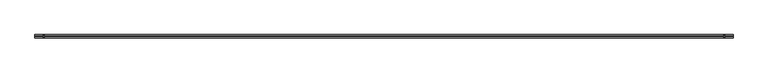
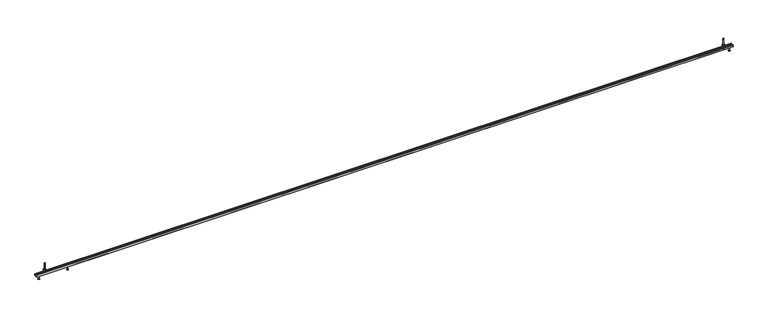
"""IFC4 building model written with IfcOpenShell, lengths in millimetres: fastener geometry, JTA-K JORDAHL® AnchorChannels : JTA-K L=6000 mm."""

from ifc_helpers import new_model, si_unit, point, frame, frame_2d, origin, place, context, project, spatial, polyline, circle_curve, trimmed, segment, composite_curve, outline, extrude, source, transform, mapped, element, save
from ifc_brep_helpers import plane_surface, cylinder_surface, revolved_surface, advanced_brep


def fastener_d2c01e08(model_context):
    return source(origin(), model_context, "Body", "SolidModel", [
        advanced_brep(
        [(272.9166667, 0.0, -15.0), (283.4166667, 0.0, -15.0), (262.4166667, 0.0, -15.0), (266.9166667, 0.0, -50.0), (278.9166667, 0.0, -50.0), (272.9166667, 0.0, -50.0), (266.9166667, 0.0, -48.0), (278.9166667, 0.0, -48.0), (269.4166667, 0.0, -46.5566243), (276.4166667, 0.0, -46.5566243), (269.4166667, 0.0, -17.5), (276.4166667, 0.0, -17.5)],
        [
            (0, 1),
            (1, 2, circle_curve(frame((272.9166667, 0.0, -15.0), z_axis=(0.0, 0.0, 1.0), x_axis=(1.0, 0.0, 0.0)), 10.5)),
            (2, 0),
            (2, 1, circle_curve(frame((272.9166667, 0.0, -15.0), z_axis=(0.0, 0.0, 1.0), x_axis=(1.0, 0.0, 0.0)), 10.5)),
            (3, 4, circle_curve(frame((272.9166667, 0.0, -50.0), z_axis=(0.0, 0.0, -1.0), x_axis=(1.0, 0.0, 0.0)), 6.0)),
            (4, 5),
            (5, 3),
            (4, 3, circle_curve(frame((272.9166667, 0.0, -50.0), z_axis=(0.0, 0.0, -1.0), x_axis=(1.0, 0.0, 0.0)), 6.0)),
            (6, 7, circle_curve(frame((272.9166667, 0.0, -48.0), z_axis=(0.0, 0.0, -1.0), x_axis=(1.0, 0.0, 0.0)), 6.0)),
            (7, 4),
            (3, 6),
            (7, 6, circle_curve(frame((272.9166667, 0.0, -48.0), z_axis=(0.0, 0.0, -1.0), x_axis=(1.0, 0.0, 0.0)), 6.0)),
            (8, 9, circle_curve(frame((272.9166667, 0.0, -46.5566243), z_axis=(0.0, 0.0, -1.0), x_axis=(1.0, 0.0, 0.0)), 3.5)),
            (9, 7),
            (6, 8),
            (9, 8, circle_curve(frame((272.9166667, 0.0, -46.5566243), z_axis=(0.0, 0.0, -1.0), x_axis=(1.0, 0.0, 0.0)), 3.5)),
            (10, 11, circle_curve(frame((272.9166667, 0.0, -17.5), z_axis=(0.0, 0.0, -1.0), x_axis=(1.0, 0.0, 0.0)), 3.5)),
            (11, 9),
            (8, 10),
            (11, 10, circle_curve(frame((272.9166667, 0.0, -17.5), z_axis=(0.0, 0.0, -1.0), x_axis=(1.0, 0.0, 0.0)), 3.5)),
            (1, 11),
            (10, 2),
        ],
        [
            plane_surface(frame((272.9166667, 0.0, -15.0), z_axis=(0.0, 0.0, 1.0), x_axis=(1.0, 0.0, 0.0))),
            plane_surface(frame((272.9166667, 0.0, -50.0), z_axis=(0.0, 0.0, -1.0), x_axis=(1.0, 0.0, 0.0))),
            cylinder_surface(frame((272.9166667, 0.0, 2249.3150031), z_axis=(0.0, 0.0, 1.0), x_axis=(1.0, 0.0, 0.0)), 6.0),
            revolved_surface(polyline([(278.9166667, 0.0, -48.0), (276.4166667, 0.0, -46.5566243)]), (272.9166667, 0.0, 2249.3150031), (0.0, 0.0, 1.0)),
            cylinder_surface(frame((272.9166667, 0.0, 2249.3150031), z_axis=(0.0, 0.0, 1.0), x_axis=(1.0, 0.0, 0.0)), 3.5),
            revolved_surface(polyline([(276.4166667, 0.0, -17.5), (283.4166667, 0.0, -15.0)]), (272.9166667, 0.0, 2249.3150031), (0.0, 0.0, 1.0)),
        ],
        [
            (0, [[1, 2, 3]]),
            (0, [[-3, 4, -1]]),
            (1, [[5, 6, 7]]),
            (1, [[8, -7, -6]]),
            (2, [[9, 10, -5, 11]]),
            (2, [[12, -11, -8, -10]]),
            (3, [[13, 14, -9, 15]]),
            (3, [[16, -15, -12, -14]]),
            (4, [[17, 18, -13, 19]]),
            (4, [[20, -19, -16, -18]]),
            (5, [[-2, 21, -17, 22]]),
            (5, [[-4, -22, -20, -21]]),
        ],
    ),
        extrude(outline(polyline([(5925.0, 9.2376043), (5933.0, 4.6188022), (5933.0, -4.6188022), (5925.0, -9.2376043), (5917.0, -4.6188022), (5917.0, 4.6188022), (5925.0, 9.2376043)]), holes=[composite_curve([segment(trimmed(circle_curve(frame_2d((5925.0, 0.0)), 4.0), [point((5921.0, 0.0))], [point((5929.0, 0.0))], True, "CARTESIAN"), True, "CONTINUOUS"), segment(trimmed(circle_curve(frame_2d((5925.0, 0.0)), 4.0), [point((5929.0, 0.0))], [point((5921.0, 0.0))], True, "CARTESIAN"), True, "CONTINUOUS")], self_intersect=False)]), frame((0.0, 0.0, 17.0), z_axis=(0.0, 0.0, 1.0), x_axis=(1.0, 0.0, 0.0)), (0.0, 0.0, 1.0), 8.4),
        extrude(outline(composite_curve([segment(trimmed(circle_curve(frame_2d((5925.0, 0.0)), 10.0), [point((5915.0, 0.0))], [point((5935.0, 0.0))], False, "CARTESIAN"), True, "CONTINUOUS"), segment(trimmed(circle_curve(frame_2d((5925.0, 0.0)), 10.0), [point((5935.0, 0.0))], [point((5915.0, 0.0))], False, "CARTESIAN"), True, "CONTINUOUS")], self_intersect=False), holes=[composite_curve([segment(trimmed(circle_curve(frame_2d((5925.0, 0.0)), 5.25), [point((5919.75, 0.0))], [point((5930.25, 0.0))], True, "CARTESIAN"), True, "CONTINUOUS"), segment(trimmed(circle_curve(frame_2d((5925.0, 0.0)), 5.25), [point((5930.25, 0.0))], [point((5919.75, 0.0))], True, "CARTESIAN"), True, "CONTINUOUS")], self_intersect=False)]), frame((0.0, 0.0, 15.0), z_axis=(0.0, 0.0, 1.0), x_axis=(1.0, 0.0, 0.0)), (0.0, 0.0, 1.0), 2.0),
        extrude(outline(polyline([(75.0, 9.2376043), (83.0, 4.6188022), (83.0, -4.6188022), (75.0, -9.2376043), (67.0, -4.6188022), (67.0, 4.6188022), (75.0, 9.2376043)]), holes=[composite_curve([segment(trimmed(circle_curve(frame_2d((75.0, 0.0)), 4.0), [point((71.0, 0.0))], [point((79.0, 0.0))], True, "CARTESIAN"), True, "CONTINUOUS"), segment(trimmed(circle_curve(frame_2d((75.0, 0.0)), 4.0), [point((79.0, 0.0))], [point((71.0, 0.0))], True, "CARTESIAN"), True, "CONTINUOUS")], self_intersect=False)]), frame((0.0, 0.0, 17.0), z_axis=(0.0, 0.0, 1.0), x_axis=(1.0, 0.0, 0.0)), (0.0, 0.0, 1.0), 8.4),
        extrude(outline(composite_curve([segment(trimmed(circle_curve(frame_2d((75.0, 0.0)), 10.0), [point((65.0, 0.0))], [point((85.0, 0.0))], False, "CARTESIAN"), True, "CONTINUOUS"), segment(trimmed(circle_curve(frame_2d((75.0, 0.0)), 10.0), [point((85.0, 0.0))], [point((65.0, 0.0))], False, "CARTESIAN"), True, "CONTINUOUS")], self_intersect=False), holes=[composite_curve([segment(trimmed(circle_curve(frame_2d((75.0, 0.0)), 5.25), [point((69.75, 0.0))], [point((80.25, 0.0))], True, "CARTESIAN"), True, "CONTINUOUS"), segment(trimmed(circle_curve(frame_2d((75.0, 0.0)), 5.25), [point((80.25, 0.0))], [point((69.75, 0.0))], True, "CARTESIAN"), True, "CONTINUOUS")], self_intersect=False)]), frame((0.0, 0.0, 15.0), z_axis=(0.0, 0.0, 1.0), x_axis=(1.0, 0.0, 0.0)), (0.0, 0.0, 1.0), 2.0),
        advanced_brep(
        [(5930.5, 11.0, -2.3), (5930.5, -11.0, -2.3), (5930.5, -11.0, -8.3), (5930.5, 11.0, -8.3), (5919.5, 11.0, -2.3), (5919.5, 11.0, -8.3), (5919.5, -11.0, -8.3), (5919.5, -11.0, -2.3), (5929.0, 0.0, -2.3), (5921.0, 0.0, -2.3), (5921.0, 0.0, 77.7), (5929.0, 0.0, 77.7)],
        [
            (0, 1),
            (1, 2),
            (2, 3),
            (3, 0),
            (4, 5),
            (5, 6),
            (6, 7),
            (7, 4),
            (0, 4),
            (7, 1),
            (8, 9, circle_curve(frame((5925.0, 0.0, -2.3), z_axis=(0.0, 0.0, -1.0), x_axis=(1.0, 0.0, 0.0)), 4.0)),
            (9, 8, circle_curve(frame((5925.0, 0.0, -2.3), z_axis=(0.0, 0.0, -1.0), x_axis=(1.0, 0.0, 0.0)), 4.0)),
            (6, 2),
            (5, 3),
            (10, 11, circle_curve(frame((5925.0, 0.0, 77.7), z_axis=(0.0, 0.0, 1.0), x_axis=(1.0, 0.0, 0.0)), 4.0)),
            (11, 10, circle_curve(frame((5925.0, 0.0, 77.7), z_axis=(0.0, 0.0, 1.0), x_axis=(1.0, 0.0, 0.0)), 4.0)),
            (10, 9),
            (8, 11),
        ],
        [
            plane_surface(frame((5930.5, -11.0, -2.3), z_axis=(1.0, 0.0, 0.0), x_axis=(0.0, -1.0, 0.0))),
            plane_surface(frame((5919.5, -11.0, -2.3), z_axis=(-1.0, 0.0, 0.0), x_axis=(0.0, 1.0, 0.0))),
            plane_surface(frame((5930.5, 11.0, -2.3), z_axis=(0.0, 0.0, 1.0), x_axis=(-1.0, 0.0, 0.0))),
            plane_surface(frame((5930.5, -11.0, -2.3), z_axis=(0.0, -1.0, 0.0), x_axis=(-1.0, 0.0, 0.0))),
            plane_surface(frame((5930.5, -11.0, -8.3), z_axis=(0.0, 0.0, -1.0), x_axis=(-1.0, 0.0, 0.0))),
            plane_surface(frame((5930.5, 11.0, -8.3), z_axis=(0.0, 1.0, 0.0), x_axis=(-1.0, 0.0, 0.0))),
            plane_surface(frame((5929.0, 0.0, 77.7), z_axis=(0.0, 0.0, 1.0), x_axis=(0.0, 1.0, 0.0))),
            cylinder_surface(frame((5925.0, 0.0, -2.3), z_axis=(0.0, 0.0, 1.0), x_axis=(1.0, 0.0, 0.0)), 4.0),
        ],
        [
            (0, [[1, 2, 3, 4]]),
            (1, [[5, 6, 7, 8]]),
            (2, [[-1, 9, -8, 10], [11, 12]]),
            (3, [[-2, -10, -7, 13]]),
            (4, [[-3, -13, -6, 14]]),
            (5, [[-4, -14, -5, -9]]),
            (6, [[15, 16]]),
            (7, [[-15, 17, -11, 18]]),
            (7, [[-16, -18, -12, -17]]),
        ],
    ),
        advanced_brep(
        [(80.5, 11.0, -2.3), (80.5, -11.0, -2.3), (80.5, -11.0, -8.3), (80.5, 11.0, -8.3), (69.5, 11.0, -2.3), (69.5, 11.0, -8.3), (69.5, -11.0, -8.3), (69.5, -11.0, -2.3), (79.0, 0.0, -2.3), (71.0, 0.0, -2.3), (71.0, 0.0, 77.7), (79.0, 0.0, 77.7)],
        [
            (0, 1),
            (1, 2),
            (2, 3),
            (3, 0),
            (4, 5),
            (5, 6),
            (6, 7),
            (7, 4),
            (0, 4),
            (7, 1),
            (8, 9, circle_curve(frame((75.0, 0.0, -2.3), z_axis=(0.0, 0.0, -1.0), x_axis=(1.0, 0.0, 0.0)), 4.0)),
            (9, 8, circle_curve(frame((75.0, 0.0, -2.3), z_axis=(0.0, 0.0, -1.0), x_axis=(1.0, 0.0, 0.0)), 4.0)),
            (6, 2),
            (5, 3),
            (10, 11, circle_curve(frame((75.0, 0.0, 77.7), z_axis=(0.0, 0.0, 1.0), x_axis=(1.0, 0.0, 0.0)), 4.0)),
            (11, 10, circle_curve(frame((75.0, 0.0, 77.7), z_axis=(0.0, 0.0, 1.0), x_axis=(1.0, 0.0, 0.0)), 4.0)),
            (10, 9),
            (8, 11),
        ],
        [
            plane_surface(frame((80.5, -11.0, -2.3), z_axis=(1.0, 0.0, 0.0), x_axis=(0.0, -1.0, 0.0))),
            plane_surface(frame((69.5, -11.0, -2.3), z_axis=(-1.0, 0.0, 0.0), x_axis=(0.0, 1.0, 0.0))),
            plane_surface(frame((80.5, 11.0, -2.3), z_axis=(0.0, 0.0, 1.0), x_axis=(-1.0, 0.0, 0.0))),
            plane_surface(frame((80.5, -11.0, -2.3), z_axis=(0.0, -1.0, 0.0), x_axis=(-1.0, 0.0, 0.0))),
            plane_surface(frame((80.5, -11.0, -8.3), z_axis=(0.0, 0.0, -1.0), x_axis=(-1.0, 0.0, 0.0))),
            plane_surface(frame((80.5, 11.0, -8.3), z_axis=(0.0, 1.0, 0.0), x_axis=(-1.0, 0.0, 0.0))),
            plane_surface(frame((79.0, 0.0, 77.7), z_axis=(0.0, 0.0, 1.0), x_axis=(0.0, 1.0, 0.0))),
            cylinder_surface(frame((75.0, 0.0, -2.3), z_axis=(0.0, 0.0, 1.0), x_axis=(1.0, 0.0, 0.0)), 4.0),
        ],
        [
            (0, [[1, 2, 3, 4]]),
            (1, [[5, 6, 7, 8]]),
            (2, [[-1, 9, -8, 10], [11, 12]]),
            (3, [[-2, -10, -7, 13]]),
            (4, [[-3, -13, -6, 14]]),
            (5, [[-4, -14, -5, -9]]),
            (6, [[15, 16]]),
            (7, [[-15, 17, -11, 18]]),
            (7, [[-16, -18, -12, -17]]),
        ],
    ),
        advanced_brep(
        [(5975.0, 0.0, -15.0), (5985.5, 0.0, -15.0), (5964.5, 0.0, -15.0), (5969.0, 0.0, -50.0), (5981.0, 0.0, -50.0), (5975.0, 0.0, -50.0), (5969.0, 0.0, -48.0), (5981.0, 0.0, -48.0), (5971.5, 0.0, -46.5566243), (5978.5, 0.0, -46.5566243), (5971.5, 0.0, -17.5), (5978.5, 0.0, -17.5)],
        [
            (0, 1),
            (1, 2, circle_curve(frame((5975.0, 0.0, -15.0), z_axis=(0.0, 0.0, 1.0), x_axis=(1.0, 0.0, 0.0)), 10.5)),
            (2, 0),
            (2, 1, circle_curve(frame((5975.0, 0.0, -15.0), z_axis=(0.0, 0.0, 1.0), x_axis=(1.0, 0.0, 0.0)), 10.5)),
            (3, 4, circle_curve(frame((5975.0, 0.0, -50.0), z_axis=(0.0, 0.0, -1.0), x_axis=(1.0, 0.0, 0.0)), 6.0)),
            (4, 5),
            (5, 3),
            (4, 3, circle_curve(frame((5975.0, 0.0, -50.0), z_axis=(0.0, 0.0, -1.0), x_axis=(1.0, 0.0, 0.0)), 6.0)),
            (6, 7, circle_curve(frame((5975.0, 0.0, -48.0), z_axis=(0.0, 0.0, -1.0), x_axis=(1.0, 0.0, 0.0)), 6.0)),
            (7, 4),
            (3, 6),
            (7, 6, circle_curve(frame((5975.0, 0.0, -48.0), z_axis=(0.0, 0.0, -1.0), x_axis=(1.0, 0.0, 0.0)), 6.0)),
            (8, 9, circle_curve(frame((5975.0, 0.0, -46.5566243), z_axis=(0.0, 0.0, -1.0), x_axis=(1.0, 0.0, 0.0)), 3.5)),
            (9, 7),
            (6, 8),
            (9, 8, circle_curve(frame((5975.0, 0.0, -46.5566243), z_axis=(0.0, 0.0, -1.0), x_axis=(1.0, 0.0, 0.0)), 3.5)),
            (10, 11, circle_curve(frame((5975.0, 0.0, -17.5), z_axis=(0.0, 0.0, -1.0), x_axis=(1.0, 0.0, 0.0)), 3.5)),
            (11, 9),
            (8, 10),
            (11, 10, circle_curve(frame((5975.0, 0.0, -17.5), z_axis=(0.0, 0.0, -1.0), x_axis=(1.0, 0.0, 0.0)), 3.5)),
            (1, 11),
            (10, 2),
        ],
        [
            plane_surface(frame((5975.0, 0.0, -15.0), z_axis=(0.0, 0.0, 1.0), x_axis=(1.0, 0.0, 0.0))),
            plane_surface(frame((5975.0, 0.0, -50.0), z_axis=(0.0, 0.0, -1.0), x_axis=(1.0, 0.0, 0.0))),
            cylinder_surface(frame((5975.0, 0.0, 2249.3150031), z_axis=(0.0, 0.0, 1.0), x_axis=(1.0, 0.0, 0.0)), 6.0),
            revolved_surface(polyline([(5981.0, 0.0, -48.0), (5978.5, 0.0, -46.5566243)]), (5975.0, 0.0, 2249.3150031), (0.0, 0.0, 1.0)),
            cylinder_surface(frame((5975.0, 0.0, 2249.3150031), z_axis=(0.0, 0.0, 1.0), x_axis=(1.0, 0.0, 0.0)), 3.5),
            revolved_surface(polyline([(5978.5, 0.0, -17.5), (5985.5, 0.0, -15.0)]), (5975.0, 0.0, 2249.3150031), (0.0, 0.0, 1.0)),
        ],
        [
            (0, [[1, 2, 3]]),
            (0, [[-3, 4, -1]]),
            (1, [[5, 6, 7]]),
            (1, [[8, -7, -6]]),
            (2, [[9, 10, -5, 11]]),
            (2, [[12, -11, -8, -10]]),
            (3, [[13, 14, -9, 15]]),
            (3, [[16, -15, -12, -14]]),
            (4, [[17, 18, -13, 19]]),
            (4, [[20, -19, -16, -18]]),
            (5, [[-2, 21, -17, 22]]),
            (5, [[-4, -22, -20, -21]]),
        ],
    ),
        advanced_brep(
        [(25.0, 0.0, -15.0), (35.5, 0.0, -15.0), (14.5, 0.0, -15.0), (19.0, 0.0, -50.0), (31.0, 0.0, -50.0), (25.0, 0.0, -50.0), (19.0, 0.0, -48.0), (31.0, 0.0, -48.0), (21.5, 0.0, -46.5566243), (28.5, 0.0, -46.5566243), (21.5, 0.0, -17.5), (28.5, 0.0, -17.5)],
        [
            (0, 1),
            (1, 2, circle_curve(frame((25.0, 0.0, -15.0), z_axis=(0.0, 0.0, 1.0), x_axis=(1.0, 0.0, 0.0)), 10.5)),
            (2, 0),
            (2, 1, circle_curve(frame((25.0, 0.0, -15.0), z_axis=(0.0, 0.0, 1.0), x_axis=(1.0, 0.0, 0.0)), 10.5)),
            (3, 4, circle_curve(frame((25.0, 0.0, -50.0), z_axis=(0.0, 0.0, -1.0), x_axis=(1.0, 0.0, 0.0)), 6.0)),
            (4, 5),
            (5, 3),
            (4, 3, circle_curve(frame((25.0, 0.0, -50.0), z_axis=(0.0, 0.0, -1.0), x_axis=(1.0, 0.0, 0.0)), 6.0)),
            (6, 7, circle_curve(frame((25.0, 0.0, -48.0), z_axis=(0.0, 0.0, -1.0), x_axis=(1.0, 0.0, 0.0)), 6.0)),
            (7, 4),
            (3, 6),
            (7, 6, circle_curve(frame((25.0, 0.0, -48.0), z_axis=(0.0, 0.0, -1.0), x_axis=(1.0, 0.0, 0.0)), 6.0)),
            (8, 9, circle_curve(frame((25.0, 0.0, -46.5566243), z_axis=(0.0, 0.0, -1.0), x_axis=(1.0, 0.0, 0.0)), 3.5)),
            (9, 7),
            (6, 8),
            (9, 8, circle_curve(frame((25.0, 0.0, -46.5566243), z_axis=(0.0, 0.0, -1.0), x_axis=(1.0, 0.0, 0.0)), 3.5)),
            (10, 11, circle_curve(frame((25.0, 0.0, -17.5), z_axis=(0.0, 0.0, -1.0), x_axis=(1.0, 0.0, 0.0)), 3.5)),
            (11, 9),
            (8, 10),
            (11, 10, circle_curve(frame((25.0, 0.0, -17.5), z_axis=(0.0, 0.0, -1.0), x_axis=(1.0, 0.0, 0.0)), 3.5)),
            (1, 11),
            (10, 2),
        ],
        [
            plane_surface(frame((25.0, 0.0, -15.0), z_axis=(0.0, 0.0, 1.0), x_axis=(1.0, 0.0, 0.0))),
            plane_surface(frame((25.0, 0.0, -50.0), z_axis=(0.0, 0.0, -1.0), x_axis=(1.0, 0.0, 0.0))),
            cylinder_surface(frame((25.0, 0.0, 2249.3150031), z_axis=(0.0, 0.0, 1.0), x_axis=(1.0, 0.0, 0.0)), 6.0),
            revolved_surface(polyline([(31.0, 0.0, -48.0), (28.5, 0.0, -46.5566243)]), (25.0, 0.0, 2249.3150031), (0.0, 0.0, 1.0)),
            cylinder_surface(frame((25.0, 0.0, 2249.3150031), z_axis=(0.0, 0.0, 1.0), x_axis=(1.0, 0.0, 0.0)), 3.5),
            revolved_surface(polyline([(28.5, 0.0, -17.5), (35.5, 0.0, -15.0)]), (25.0, 0.0, 2249.3150031), (0.0, 0.0, 1.0)),
        ],
        [
            (0, [[1, 2, 3]]),
            (0, [[-3, 4, -1]]),
            (1, [[5, 6, 7]]),
            (1, [[8, -7, -6]]),
            (2, [[9, 10, -5, 11]]),
            (2, [[12, -11, -8, -10]]),
            (3, [[13, 14, -9, 15]]),
            (3, [[16, -15, -12, -14]]),
            (4, [[17, 18, -13, 19]]),
            (4, [[20, -19, -16, -18]]),
            (5, [[-2, 21, -17, 22]]),
            (5, [[-4, -22, -20, -21]]),
        ],
    ),
        extrude(outline(polyline([(14.0, 0.0), (14.0, -15.0), (-14.0, -15.0), (-14.0, 0.0), (-6.0, 0.0), (-6.0, -2.3), (-11.7, -2.3), (-11.7, -12.7), (11.7, -12.7), (11.7, -2.3), (6.0, -2.3), (6.0, 0.0), (14.0, 0.0)])), frame((0.0, 0.0, 0.0), z_axis=(1.0, 0.0, 0.0), x_axis=(0.0, 1.0, 0.0)), (0.0, 0.0, 1.0), 6000.0),
    ])


if __name__ == "__main__":
    model = new_model("IFC4")
    model_context = context("Model", 3, world=origin())
    ifc_project = project(units=[si_unit("LENGTHUNIT", "METRE", prefix="MILLI")], contexts=[model_context])
    site = spatial("IfcSite", under=ifc_project)
    building = spatial("IfcBuilding", under=site)
    placement = place(None, origin())
    fastener_shape = fastener_d2c01e08(model_context)
    element("IfcFastener", 1, ObjectType="JTA-K JORDAHL® AnchorChannels : JTA-K L=6000 mm", at=placement, inside=building, context=model_context, shape_type="MappedRepresentation", body=[
        mapped(fastener_shape, transform((0.0, 0.0, 0.0), x_axis=(1.0, 0.0, 0.0), y_axis=(0.0, 1.0, 0.0), z_axis=(0.0, 0.0, 1.0))),
    ])
    save(model, "model.ifc")
